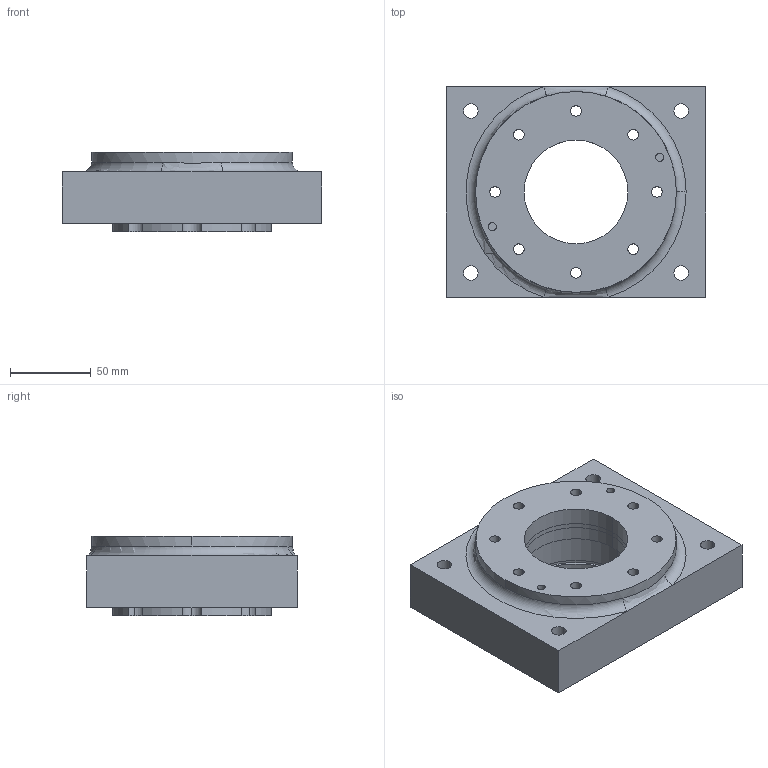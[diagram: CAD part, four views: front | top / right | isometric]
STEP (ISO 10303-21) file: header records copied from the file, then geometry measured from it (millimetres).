
FILE_DESCRIPTION (( 'STEP AP203' ), '1' );
FILE_NAME ('SRB160-SERVO-BRACKET-ASM.native.step', '2026-08-13T23:27:39', ( '' ), ( '' ), 'SwSTEP 2.0', 'SolidWorks 2026', '' );
FILE_SCHEMA (( 'CONFIG_CONTROL_DESIGN' ));
Length unit declared in the file: millimetre
Products named in the file (3): SRB160-CARRIER-001; SRB160-SERVO-BRACKET-ASM.native; SRB160-BRACKET-001
Assembly tree (2 placements, depth 2):
  SRB160-SERVO-BRACKET-ASM.native
    SRB160-BRACKET-001
    SRB160-CARRIER-001
Bounding box: 160 x 130 x 49 mm (x, y, z)
Volume: 654121.9 mm3; surface area: 107671.2 mm2
Topology: 2 solids, 2 shells, 155 faces, 373 edges, 247 vertices
Faces by surface type: cylinder 115, plane 35, torus 3, bspline 2
Entity records: 5124 total; most frequent: DIRECTION 921, CARTESIAN_POINT 888, ORIENTED_EDGE 746, AXIS2_PLACEMENT_3D 396, EDGE_CURVE 373, VERTEX_POINT 247, CIRCLE 238, EDGE_LOOP 224
